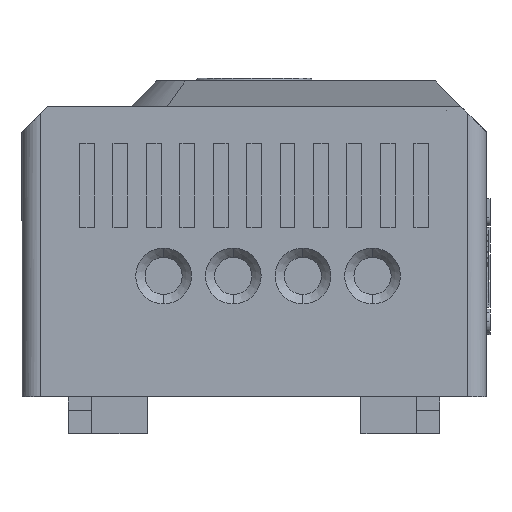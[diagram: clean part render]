
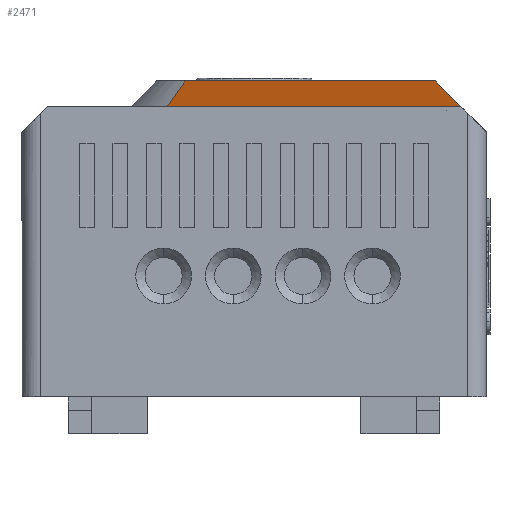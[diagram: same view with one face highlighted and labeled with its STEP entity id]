
A CAD part, front view. The second image highlights one B-rep face of the part: STEP entity #2471.
In plain terms, the highlighted planar face has unit normal (-0.5, -0.5, 0.707).
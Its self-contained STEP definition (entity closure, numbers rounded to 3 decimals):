
#1334 = FACE_OUTER_BOUND ( 'NONE', #16977, .T. ) ;
#2471 = ADVANCED_FACE ( 'NONE', ( #1334 ), #26767, .T. ) ;
#3334 = EDGE_CURVE ( 'NONE', #27230, #27232, #8419, .T. ) ;
#3342 = EDGE_CURVE ( 'NONE', #27313, #27290, #8435, .T. ) ;
#3350 = EDGE_CURVE ( 'NONE', #25563, #25643, #8451, .T. ) ;
#3604 = EDGE_CURVE ( 'NONE', #25434, #27452, #8930, .T. ) ;
#3623 = EDGE_CURVE ( 'NONE', #27452, #25209, #8944, .T. ) ;
#3682 = VECTOR ( 'NONE', #14375, 1000. ) ;
#3710 = LINE ( 'NONE', #14869, #3717 ) ;
#3714 = LINE ( 'NONE', #14875, #3721 ) ;
#3716 = LINE ( 'NONE', #14888, #3719 ) ;
#3717 = VECTOR ( 'NONE', #14886, 1000. ) ;
#3718 = LINE ( 'NONE', #14882, #3723 ) ;
#3719 = VECTOR ( 'NONE', #14892, 1000. ) ;
#3720 = LINE ( 'NONE', #14890, #3725 ) ;
#3721 = VECTOR ( 'NONE', #14894, 1000. ) ;
#3722 = LINE ( 'NONE', #14897, #3727 ) ;
#3723 = VECTOR ( 'NONE', #14898, 1000. ) ;
#3724 = LINE ( 'NONE', #14900, #3729 ) ;
#3725 = VECTOR ( 'NONE', #14902, 1000. ) ;
#3727 = VECTOR ( 'NONE', #14907, 1000. ) ;
#3729 = VECTOR ( 'NONE', #14909, 1000. ) ;
#4576 = LINE ( 'NONE', #5198, #4579 ) ;
#4579 = VECTOR ( 'NONE', #5199, 1000. ) ;
#5198 = CARTESIAN_POINT ( 'NONE',  ( 29.607, 33.607, 48.893 ) ) ;
#5199 = DIRECTION ( 'NONE',  ( -0.357, 0.863, 0.357 ) ) ;
#5848 = EDGE_CURVE ( 'NONE', #25434, #25563, #3710, .T. ) ;
#5849 = EDGE_CURVE ( 'NONE', #27313, #25643, #3716, .T. ) ;
#5850 = EDGE_CURVE ( 'NONE', #27230, #27290, #3714, .T. ) ;
#5851 = EDGE_CURVE ( 'NONE', #27240, #27232, #3718, .T. ) ;
#5852 = EDGE_CURVE ( 'NONE', #27135, #27238, #3720, .T. ) ;
#5853 = EDGE_CURVE ( 'NONE', #27132, #27133, #3722, .T. ) ;
#5854 = EDGE_CURVE ( 'NONE', #27402, #25716, #3724, .T. ) ;
#6299 = EDGE_CURVE ( 'NONE', #25679, #25209, #4576, .T. ) ;
#8419 = LINE ( 'NONE', #12406, #8424 ) ;
#8424 = VECTOR ( 'NONE', #12419, 1000. ) ;
#8435 = LINE ( 'NONE', #12457, #8440 ) ;
#8440 = VECTOR ( 'NONE', #12471, 1000. ) ;
#8451 = LINE ( 'NONE', #12502, #8456 ) ;
#8456 = VECTOR ( 'NONE', #12515, 1000. ) ;
#8930 = LINE ( 'NONE', #13935, #8934 ) ;
#8934 = VECTOR ( 'NONE', #13925, 1000. ) ;
#8944 = LINE ( 'NONE', #14385, #3682 ) ;
#12406 = CARTESIAN_POINT ( 'NONE',  ( 15.631, 22.631, 31.25 ) ) ;
#12419 = DIRECTION ( 'NONE',  ( 0.707, -0.707, 0. ) ) ;
#12457 = CARTESIAN_POINT ( 'NONE',  ( 15.631, 22.631, 31.25 ) ) ;
#12471 = DIRECTION ( 'NONE',  ( 0.707, -0.707, 0. ) ) ;
#12502 = CARTESIAN_POINT ( 'NONE',  ( 15.631, 22.631, 31.25 ) ) ;
#12515 = DIRECTION ( 'NONE',  ( 0.707, -0.707, 0. ) ) ;
#13220 = LINE ( 'NONE', #17525, #13226 ) ;
#13226 = VECTOR ( 'NONE', #17526, 1000. ) ;
#13289 = LINE ( 'NONE', #17783, #13297 ) ;
#13297 = VECTOR ( 'NONE', #17784, 1000. ) ;
#13333 = LINE ( 'NONE', #17799, #13342 ) ;
#13342 = VECTOR ( 'NONE', #17800, 1000. ) ;
#13376 = LINE ( 'NONE', #17815, #13385 ) ;
#13385 = VECTOR ( 'NONE', #17816, 1000. ) ;
#13925 = DIRECTION ( 'NONE',  ( 0.5, 0.5, 0.707 ) ) ;
#13935 = CARTESIAN_POINT ( 'NONE',  ( 15.631, 22.631, 31.25 ) ) ;
#14375 = DIRECTION ( 'NONE',  ( 0.707, -0.707, 0. ) ) ;
#14385 = CARTESIAN_POINT ( 'NONE',  ( 49.195, -7.044, 34. ) ) ;
#14869 = CARTESIAN_POINT ( 'NONE',  ( 15.631, 22.631, 31.25 ) ) ;
#14875 = CARTESIAN_POINT ( 'NONE',  ( 21.812, 16.45, 31.25 ) ) ;
#14882 = CARTESIAN_POINT ( 'NONE',  ( 25.012, 13.25, 31.25 ) ) ;
#14886 = DIRECTION ( 'NONE',  ( 0.707, -0.707, 0. ) ) ;
#14888 = CARTESIAN_POINT ( 'NONE',  ( 18.612, 19.65, 31.25 ) ) ;
#14890 = CARTESIAN_POINT ( 'NONE',  ( 28.212, 10.05, 31.25 ) ) ;
#14892 = DIRECTION ( 'NONE',  ( -0.707, 0.707, 0. ) ) ;
#14894 = DIRECTION ( 'NONE',  ( -0.707, 0.707, 0. ) ) ;
#14897 = CARTESIAN_POINT ( 'NONE',  ( 31.412, 6.85, 31.25 ) ) ;
#14898 = DIRECTION ( 'NONE',  ( -0.707, 0.707, 0. ) ) ;
#14900 = CARTESIAN_POINT ( 'NONE',  ( 34.612, 3.65, 31.25 ) ) ;
#14902 = DIRECTION ( 'NONE',  ( -0.707, 0.707, 0. ) ) ;
#14907 = DIRECTION ( 'NONE',  ( -0.707, 0.707, 0. ) ) ;
#14909 = DIRECTION ( 'NONE',  ( -0.707, 0.707, 0. ) ) ;
#16977 = EDGE_LOOP ( 'NONE', ( #24580, #24581, #24582, #24583, #24584, #24585, #24586, #24587, #24588, #24589, #24590, #24591, #24592, #24593, #24594, #24595, #24596 ) ) ;
#17525 = CARTESIAN_POINT ( 'NONE',  ( 15.631, 22.631, 31.25 ) ) ;
#17526 = DIRECTION ( 'NONE',  ( 0.707, -0.707, 0. ) ) ;
#17783 = CARTESIAN_POINT ( 'NONE',  ( 15.631, 22.631, 31.25 ) ) ;
#17784 = DIRECTION ( 'NONE',  ( 0.707, -0.707, 0. ) ) ;
#17799 = CARTESIAN_POINT ( 'NONE',  ( 15.631, 22.631, 31.25 ) ) ;
#17800 = DIRECTION ( 'NONE',  ( 0.707, -0.707, 0. ) ) ;
#17815 = CARTESIAN_POINT ( 'NONE',  ( 15.631, 22.631, 31.25 ) ) ;
#17816 = DIRECTION ( 'NONE',  ( 0.707, -0.707, 0. ) ) ;
#20972 = CARTESIAN_POINT ( 'NONE',  ( 44.5, -2.349, 34. ) ) ;
#21197 = CARTESIAN_POINT ( 'NONE',  ( 15.631, 22.631, 31.25 ) ) ;
#21326 = CARTESIAN_POINT ( 'NONE',  ( 17.012, 21.25, 31.25 ) ) ;
#21406 = CARTESIAN_POINT ( 'NONE',  ( 18.612, 19.65, 31.25 ) ) ;
#21442 = CARTESIAN_POINT ( 'NONE',  ( 47.25, -8.988, 31.25 ) ) ;
#21479 = CARTESIAN_POINT ( 'NONE',  ( 34.612, 3.65, 31.25 ) ) ;
#21844 = CARTESIAN_POINT ( 'NONE',  ( 33.012, 5.25, 31.25 ) ) ;
#21845 = CARTESIAN_POINT ( 'NONE',  ( 31.412, 6.85, 31.25 ) ) ;
#21846 = CARTESIAN_POINT ( 'NONE',  ( 29.812, 8.45, 31.25 ) ) ;
#21894 = CARTESIAN_POINT ( 'NONE',  ( 23.412, 14.85, 31.25 ) ) ;
#21895 = CARTESIAN_POINT ( 'NONE',  ( 25.012, 13.25, 31.25 ) ) ;
#21898 = CARTESIAN_POINT ( 'NONE',  ( 28.212, 10.05, 31.25 ) ) ;
#21899 = CARTESIAN_POINT ( 'NONE',  ( 26.612, 11.65, 31.25 ) ) ;
#21925 = CARTESIAN_POINT ( 'NONE',  ( 21.812, 16.45, 31.25 ) ) ;
#21937 = CARTESIAN_POINT ( 'NONE',  ( 20.212, 18.05, 31.25 ) ) ;
#22012 = CARTESIAN_POINT ( 'NONE',  ( 36.212, 2.05, 31.25 ) ) ;
#22098 = EDGE_CURVE ( 'NONE', #27402, #25679, #13220, .T. ) ;
#22167 = EDGE_CURVE ( 'NONE', #27132, #25716, #13289, .T. ) ;
#22175 = EDGE_CURVE ( 'NONE', #27135, #27133, #13333, .T. ) ;
#22183 = EDGE_CURVE ( 'NONE', #27240, #27238, #13376, .T. ) ;
#22443 = AXIS2_PLACEMENT_3D ( 'NONE', #26762, #26770, #26772 ) ;
#23269 = CARTESIAN_POINT ( 'NONE',  ( 17.575, 24.575, 34. ) ) ;
#24580 = ORIENTED_EDGE ( 'NONE', *, *, #6299, .T. ) ;
#24581 = ORIENTED_EDGE ( 'NONE', *, *, #3623, .F. ) ;
#24582 = ORIENTED_EDGE ( 'NONE', *, *, #3604, .F. ) ;
#24583 = ORIENTED_EDGE ( 'NONE', *, *, #5848, .T. ) ;
#24584 = ORIENTED_EDGE ( 'NONE', *, *, #3350, .T. ) ;
#24585 = ORIENTED_EDGE ( 'NONE', *, *, #5849, .F. ) ;
#24586 = ORIENTED_EDGE ( 'NONE', *, *, #3342, .T. ) ;
#24587 = ORIENTED_EDGE ( 'NONE', *, *, #5850, .F. ) ;
#24588 = ORIENTED_EDGE ( 'NONE', *, *, #3334, .T. ) ;
#24589 = ORIENTED_EDGE ( 'NONE', *, *, #5851, .F. ) ;
#24590 = ORIENTED_EDGE ( 'NONE', *, *, #22183, .T. ) ;
#24591 = ORIENTED_EDGE ( 'NONE', *, *, #5852, .F. ) ;
#24592 = ORIENTED_EDGE ( 'NONE', *, *, #22175, .T. ) ;
#24593 = ORIENTED_EDGE ( 'NONE', *, *, #5853, .F. ) ;
#24594 = ORIENTED_EDGE ( 'NONE', *, *, #22167, .T. ) ;
#24595 = ORIENTED_EDGE ( 'NONE', *, *, #5854, .F. ) ;
#24596 = ORIENTED_EDGE ( 'NONE', *, *, #22098, .T. ) ;
#25209 = VERTEX_POINT ( 'NONE', #20972 ) ;
#25434 = VERTEX_POINT ( 'NONE', #21197 ) ;
#25563 = VERTEX_POINT ( 'NONE', #21326 ) ;
#25643 = VERTEX_POINT ( 'NONE', #21406 ) ;
#25679 = VERTEX_POINT ( 'NONE', #21442 ) ;
#25716 = VERTEX_POINT ( 'NONE', #21479 ) ;
#26762 = CARTESIAN_POINT ( 'NONE',  ( 17.575, 24.575, 34. ) ) ;
#26767 = PLANE ( 'NONE',  #22443 ) ;
#26770 = DIRECTION ( 'NONE',  ( -0.5, -0.5, 0.707 ) ) ;
#26772 = DIRECTION ( 'NONE',  ( -0.707, 0.707, 0. ) ) ;
#27132 = VERTEX_POINT ( 'NONE', #21844 ) ;
#27133 = VERTEX_POINT ( 'NONE', #21845 ) ;
#27135 = VERTEX_POINT ( 'NONE', #21846 ) ;
#27230 = VERTEX_POINT ( 'NONE', #21894 ) ;
#27232 = VERTEX_POINT ( 'NONE', #21895 ) ;
#27238 = VERTEX_POINT ( 'NONE', #21898 ) ;
#27240 = VERTEX_POINT ( 'NONE', #21899 ) ;
#27290 = VERTEX_POINT ( 'NONE', #21925 ) ;
#27313 = VERTEX_POINT ( 'NONE', #21937 ) ;
#27402 = VERTEX_POINT ( 'NONE', #22012 ) ;
#27452 = VERTEX_POINT ( 'NONE', #23269 ) ;
